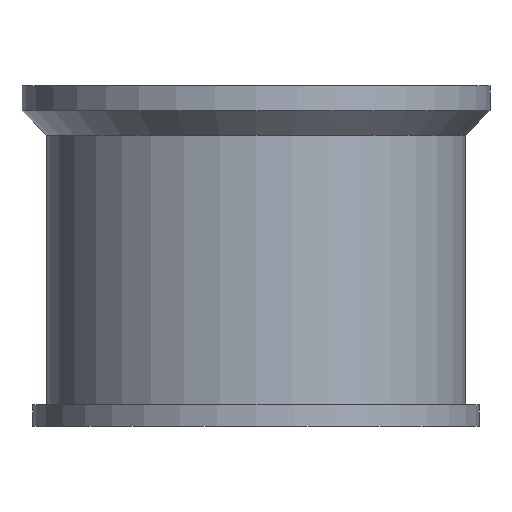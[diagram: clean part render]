
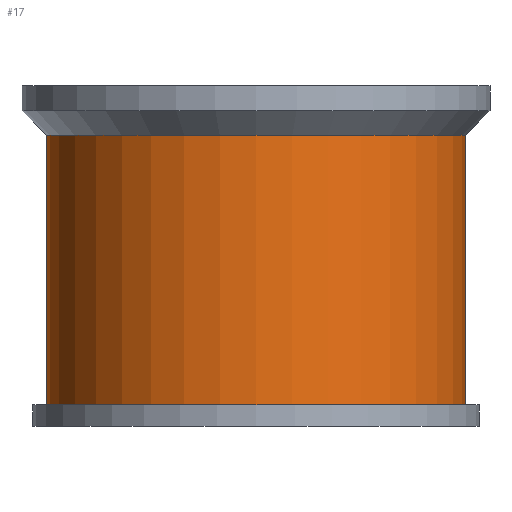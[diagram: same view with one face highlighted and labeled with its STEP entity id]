
A CAD part, front view. The second image highlights one B-rep face of the part: STEP entity #17.
In plain terms, the highlighted cylindrical face has radius 2.95 mm (diameter 5.9 mm), a full revolution.
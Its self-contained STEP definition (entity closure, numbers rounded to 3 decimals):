
#17 = ADVANCED_FACE('',(#18),#31,.T.);
#18 = FACE_BOUND('',#19,.T.);
#19 = EDGE_LOOP('',(#20,#54,#77,#104));
#20 = ORIENTED_EDGE('',*,*,#21,.T.);
#21 = EDGE_CURVE('',#22,#22,#24,.T.);
#22 = VERTEX_POINT('',#23);
#23 = CARTESIAN_POINT('',(2.95,0.,0.3));
#24 = SURFACE_CURVE('',#25,(#30,#42),.PCURVE_S1.);
#25 = CIRCLE('',#26,2.95);
#26 = AXIS2_PLACEMENT_3D('',#27,#28,#29);
#27 = CARTESIAN_POINT('',(0.,0.,0.3));
#28 = DIRECTION('',(0.,0.,1.));
#29 = DIRECTION('',(1.,0.,-0.));
#30 = PCURVE('',#31,#36);
#31 = CYLINDRICAL_SURFACE('',#32,2.95);
#32 = AXIS2_PLACEMENT_3D('',#33,#34,#35);
#33 = CARTESIAN_POINT('',(0.,0.,0.));
#34 = DIRECTION('',(0.,0.,1.));
#35 = DIRECTION('',(1.,0.,-0.));
#36 = DEFINITIONAL_REPRESENTATION('',(#37),#41);
#37 = LINE('',#38,#39);
#38 = CARTESIAN_POINT('',(0.,0.3));
#39 = VECTOR('',#40,1.);
#40 = DIRECTION('',(1.,0.));
#41 = ( GEOMETRIC_REPRESENTATION_CONTEXT(2) 
PARAMETRIC_REPRESENTATION_CONTEXT() REPRESENTATION_CONTEXT('2D SPACE',''
  ) );
#42 = PCURVE('',#43,#48);
#43 = PLANE('',#44);
#44 = AXIS2_PLACEMENT_3D('',#45,#46,#47);
#45 = CARTESIAN_POINT('',(0.,0.,0.3));
#46 = DIRECTION('',(0.,0.,1.));
#47 = DIRECTION('',(1.,0.,-0.));
#48 = DEFINITIONAL_REPRESENTATION('',(#49),#53);
#49 = CIRCLE('',#50,2.95);
#50 = AXIS2_PLACEMENT_2D('',#51,#52);
#51 = CARTESIAN_POINT('',(0.,0.));
#52 = DIRECTION('',(1.,0.));
#53 = ( GEOMETRIC_REPRESENTATION_CONTEXT(2) 
PARAMETRIC_REPRESENTATION_CONTEXT() REPRESENTATION_CONTEXT('2D SPACE',''
  ) );
#54 = ORIENTED_EDGE('',*,*,#55,.T.);
#55 = EDGE_CURVE('',#22,#56,#58,.T.);
#56 = VERTEX_POINT('',#57);
#57 = CARTESIAN_POINT('',(2.95,0.,4.1));
#58 = SEAM_CURVE('',#59,(#63,#70),.PCURVE_S1.);
#59 = LINE('',#60,#61);
#60 = CARTESIAN_POINT('',(2.95,0.,0.));
#61 = VECTOR('',#62,1.);
#62 = DIRECTION('',(0.,0.,1.));
#63 = PCURVE('',#31,#64);
#64 = DEFINITIONAL_REPRESENTATION('',(#65),#69);
#65 = LINE('',#66,#67);
#66 = CARTESIAN_POINT('',(0.,-0.));
#67 = VECTOR('',#68,1.);
#68 = DIRECTION('',(0.,1.));
#69 = ( GEOMETRIC_REPRESENTATION_CONTEXT(2) 
PARAMETRIC_REPRESENTATION_CONTEXT() REPRESENTATION_CONTEXT('2D SPACE',''
  ) );
#70 = PCURVE('',#31,#71);
#71 = DEFINITIONAL_REPRESENTATION('',(#72),#76);
#72 = LINE('',#73,#74);
#73 = CARTESIAN_POINT('',(6.283,-0.));
#74 = VECTOR('',#75,1.);
#75 = DIRECTION('',(0.,1.));
#76 = ( GEOMETRIC_REPRESENTATION_CONTEXT(2) 
PARAMETRIC_REPRESENTATION_CONTEXT() REPRESENTATION_CONTEXT('2D SPACE',''
  ) );
#77 = ORIENTED_EDGE('',*,*,#78,.F.);
#78 = EDGE_CURVE('',#56,#56,#79,.T.);
#79 = SURFACE_CURVE('',#80,(#85,#92),.PCURVE_S1.);
#80 = CIRCLE('',#81,2.95);
#81 = AXIS2_PLACEMENT_3D('',#82,#83,#84);
#82 = CARTESIAN_POINT('',(0.,0.,4.1));
#83 = DIRECTION('',(0.,0.,1.));
#84 = DIRECTION('',(1.,0.,-0.));
#85 = PCURVE('',#31,#86);
#86 = DEFINITIONAL_REPRESENTATION('',(#87),#91);
#87 = LINE('',#88,#89);
#88 = CARTESIAN_POINT('',(0.,4.1));
#89 = VECTOR('',#90,1.);
#90 = DIRECTION('',(1.,0.));
#91 = ( GEOMETRIC_REPRESENTATION_CONTEXT(2) 
PARAMETRIC_REPRESENTATION_CONTEXT() REPRESENTATION_CONTEXT('2D SPACE',''
  ) );
#92 = PCURVE('',#93,#98);
#93 = CONICAL_SURFACE('',#94,2.95,0.785);
#94 = AXIS2_PLACEMENT_3D('',#95,#96,#97);
#95 = CARTESIAN_POINT('',(0.,0.,4.1));
#96 = DIRECTION('',(0.,0.,1.));
#97 = DIRECTION('',(1.,0.,-0.));
#98 = DEFINITIONAL_REPRESENTATION('',(#99),#103);
#99 = LINE('',#100,#101);
#100 = CARTESIAN_POINT('',(0.,0.));
#101 = VECTOR('',#102,1.);
#102 = DIRECTION('',(1.,0.));
#103 = ( GEOMETRIC_REPRESENTATION_CONTEXT(2) 
PARAMETRIC_REPRESENTATION_CONTEXT() REPRESENTATION_CONTEXT('2D SPACE',''
  ) );
#104 = ORIENTED_EDGE('',*,*,#55,.F.);
